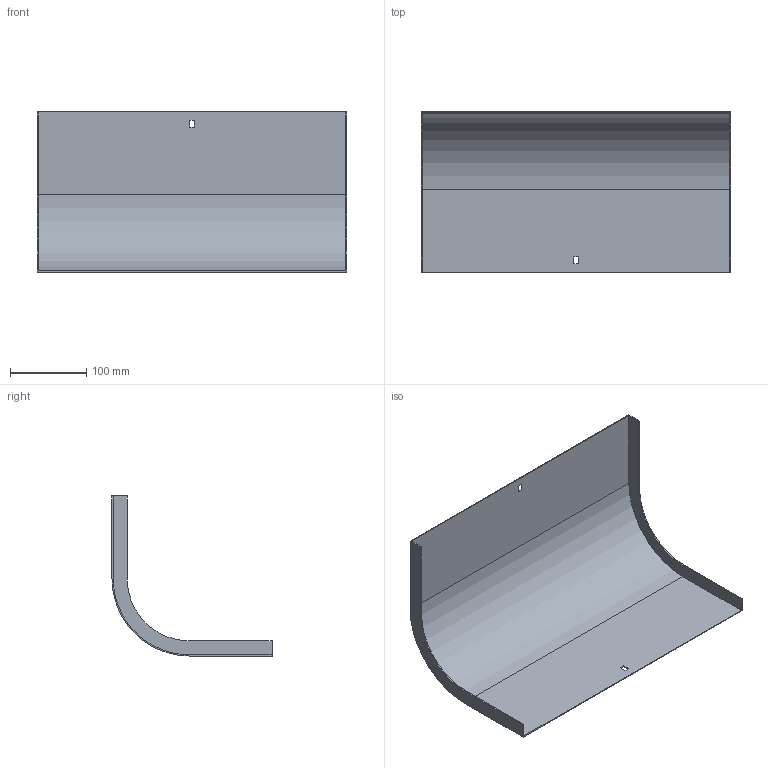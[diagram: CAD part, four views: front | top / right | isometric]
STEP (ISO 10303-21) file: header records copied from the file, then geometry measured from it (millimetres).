
FILE_DESCRIPTION (( 'STEP AP214' ), '1' );
FILE_NAME ('33G1C400.step', '2025-02-21T12:44:58', ( '' ), ( '' ), 'SwSTEP 2.0', 'SolidWorks 2023', '' );
FILE_SCHEMA (( 'AUTOMOTIVE_DESIGN' ));
Length unit declared in the file: millimetre
Products named in the file (1): 33G1C400
Bounding box: 407 x 210.5 x 210.5 mm (x, y, z)
Volume: 249540.4 mm3; surface area: 335187.1 mm2
Topology: 1 solids, 1 shells, 26 faces, 72 edges, 48 vertices
Faces by surface type: plane 22, cylinder 4
Entity records: 855 total; most frequent: CARTESIAN_POINT 147, ORIENTED_EDGE 144, DIRECTION 134, EDGE_CURVE 72, VECTOR 64, LINE 64, VERTEX_POINT 48, AXIS2_PLACEMENT_3D 35
